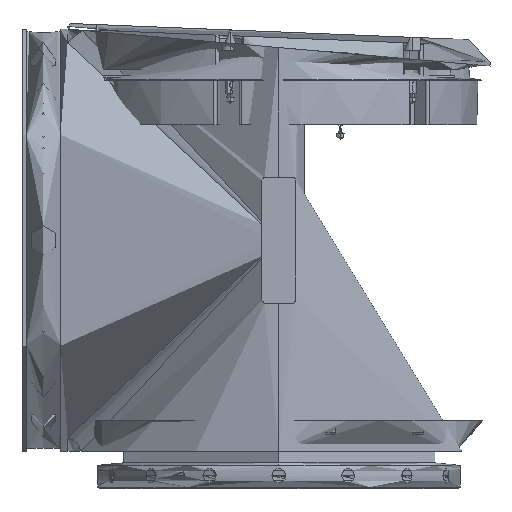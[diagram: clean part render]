
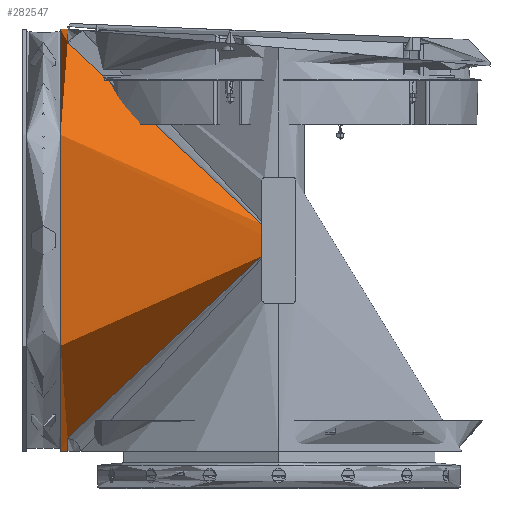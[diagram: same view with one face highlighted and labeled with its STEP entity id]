
A CAD part, left-side view. The second image highlights one B-rep face of the part: STEP entity #282547.
In plain terms, the highlighted cylindrical face has radius 74 mm (diameter 148 mm), a partial arc.
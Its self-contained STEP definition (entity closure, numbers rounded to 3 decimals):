
#11278 = DIRECTION ( 'NONE',  ( 0., 1., 0. ) ) ;
#16106 = CARTESIAN_POINT ( 'NONE',  ( 0., 74., 148. ) ) ;
#21980 = VERTEX_POINT ( 'NONE', #307276 ) ;
#27190 = CARTESIAN_POINT ( 'NONE',  ( -1.362, 74.352, 147.988 ) ) ;
#32017 = CARTESIAN_POINT ( 'NONE',  ( -5.457, 75.236, 147.807 ) ) ;
#34408 = CARTESIAN_POINT ( 'NONE',  ( -15.374, 76.029, 146.388 ) ) ;
#47119 = VERTEX_POINT ( 'NONE', #16106 ) ;
#50389 = CARTESIAN_POINT ( 'NONE',  ( 0., 74., 0. ) ) ;
#52178 = DIRECTION ( 'NONE',  ( 0., -1., 0. ) ) ;
#54601 = CARTESIAN_POINT ( 'NONE',  ( -8.745, 75.758, 0.486 ) ) ;
#57765 = ORIENTED_EDGE ( 'NONE', *, *, #212799, .T. ) ;
#59398 = CARTESIAN_POINT ( 'NONE',  ( 0., 74., 0. ) ) ;
#60898 =( BOUNDED_CURVE ( )  B_SPLINE_CURVE ( 3, ( #395126, #94495, #243610, #356043 ),
 .UNSPECIFIED., .F., .F. ) 
 B_SPLINE_CURVE_WITH_KNOTS ( ( 4, 4 ),
 ( 4.788, 5.925 ),
 .UNSPECIFIED. ) 
 CURVE ( )  GEOMETRIC_REPRESENTATION_ITEM ( )  RATIONAL_B_SPLINE_CURVE ( ( 1., 0.895, 0.895, 1. ) ) 
 REPRESENTATION_ITEM ( '' )  );
#71088 = CARTESIAN_POINT ( 'NONE',  ( -0.274, 74.073, 148. ) ) ;
#71439 = FACE_OUTER_BOUND ( 'NONE', #86503, .T. ) ;
#78905 = CARTESIAN_POINT ( 'NONE',  ( -25.908, 74., 4.684 ) ) ;
#86503 = EDGE_LOOP ( 'NONE', ( #462882, #285777, #454811, #204495, #326892, #439816, #57765, #319965 ) ) ;
#94495 = CARTESIAN_POINT ( 'NONE',  ( -71.533, 37.587, 109.208 ) ) ;
#98514 = CARTESIAN_POINT ( 'NONE',  ( 0., -74.001, 74. ) ) ;
#100582 = CARTESIAN_POINT ( 'NONE',  ( -15.923, 76.01, 146.269 ) ) ;
#105389 = CARTESIAN_POINT ( 'NONE',  ( -4.363, 75.03, 147.879 ) ) ;
#107806 = CARTESIAN_POINT ( 'NONE',  ( -2.179, 74.55, 147.97 ) ) ;
#110196 = CARTESIAN_POINT ( 'NONE',  ( -0.545, 74.145, 147.998 ) ) ;
#127966 = CARTESIAN_POINT ( 'NONE',  ( -14.269, 76.047, 1.387 ) ) ;
#130381 = CARTESIAN_POINT ( 'NONE',  ( -15.374, 76.029, 1.612 ) ) ;
#137218 = CARTESIAN_POINT ( 'NONE',  ( -23.888, 74.729, 144.047 ) ) ;
#145102 = AXIS2_PLACEMENT_3D ( 'NONE', #350460, #52178, #203747 ) ;
#148154 = VERTEX_POINT ( 'NONE', #50389 ) ;
#148651 = VERTEX_POINT ( 'NONE', #318983 ) ;
#149023 = VERTEX_POINT ( 'NONE', #281706 ) ;
#152065 = EDGE_CURVE ( 'NONE', #149023, #47119, #248322, .T. ) ;
#176690 = DIRECTION ( 'NONE',  ( 0., 1., 0. ) ) ;
#181153 = CARTESIAN_POINT ( 'NONE',  ( -1.089, 74.284, 147.992 ) ) ;
#191733 = VECTOR ( 'NONE', #11278, 1000. ) ;
#194855 = EDGE_CURVE ( 'NONE', #148154, #203384, #207809, .T. ) ;
#203384 = VERTEX_POINT ( 'NONE', #251942 ) ;
#203747 = DIRECTION ( 'NONE',  ( 0., 0., 1. ) ) ;
#204495 = ORIENTED_EDGE ( 'NONE', *, *, #254424, .F. ) ;
#207809 = LINE ( 'NONE', #317874, #376042 ) ;
#208555 = CARTESIAN_POINT ( 'NONE',  ( -25.908, 74., 4.684 ) ) ;
#212799 = EDGE_CURVE ( 'NONE', #47119, #21980, #382889, .T. ) ;
#223972 = B_SPLINE_CURVE_WITH_KNOTS ( 'NONE', 3,
 ( #59398, #240426, #321007, #54601, #462915, #435908, #127966, #130381, #323413, #391959, #350461, #467735, #433464, #237993, #242844, #208555 ),
 .UNSPECIFIED., .F., .F.,
 ( 4, 2, 2, 2, 2, 2, 2, 4 ),
 ( 0., 0.007, 0.013, 0.015, 0.017, 0.02, 0.024, 0.027 ),
 .UNSPECIFIED. ) ;
#231241 =( BOUNDED_CURVE ( )  B_SPLINE_CURVE ( 3, ( #78905, #482420, #269502, #445767 ),
 .UNSPECIFIED., .F., .F. ) 
 B_SPLINE_CURVE_WITH_KNOTS ( ( 4, 4 ),
 ( 0.358, 1.495 ),
 .UNSPECIFIED. ) 
 CURVE ( )  GEOMETRIC_REPRESENTATION_ITEM ( )  RATIONAL_B_SPLINE_CURVE ( ( 1., 0.895, 0.895, 1. ) ) 
 REPRESENTATION_ITEM ( '' )  );
#237993 = CARTESIAN_POINT ( 'NONE',  ( -23.888, 74.729, 3.953 ) ) ;
#240426 = CARTESIAN_POINT ( 'NONE',  ( -2.177, 74.584, 0. ) ) ;
#242844 = CARTESIAN_POINT ( 'NONE',  ( -24.913, 74.397, 4.312 ) ) ;
#243438 = CARTESIAN_POINT ( 'NONE',  ( 0., -74.001, 148. ) ) ;
#243610 = CARTESIAN_POINT ( 'NONE',  ( -53.703, 62.909, 132.928 ) ) ;
#243652 = DIRECTION ( 'NONE',  ( 0., 1., 0. ) ) ;
#246034 = CARTESIAN_POINT ( 'NONE',  ( 0., 76.5, 74. ) ) ;
#248322 = B_SPLINE_CURVE_WITH_KNOTS ( 'NONE', 3,
 ( #406057, #291175, #137218, #366959, #476991, #435547, #369363, #100582, #34408, #249710, #323050, #398830, #362136, #32017, #105389, #445149, #107806, #27190, #181153, #110196, #71088, #325457 ),
 .UNSPECIFIED., .F., .F.,
 ( 4, 2, 2, 2, 2, 2, 2, 2, 2, 2, 4 ),
 ( 0., 0.003, 0.007, 0.01, 0.012, 0.014, 0.02, 0.024, 0.026, 0.026, 0.027 ),
 .UNSPECIFIED. ) ;
#249710 = CARTESIAN_POINT ( 'NONE',  ( -14.269, 76.047, 146.613 ) ) ;
#251942 = CARTESIAN_POINT ( 'NONE',  ( 0., 76.5, 0. ) ) ;
#254335 = CIRCLE ( 'NONE', #145102, 74. ) ;
#254424 = EDGE_CURVE ( 'NONE', #273331, #366453, #254335, .T. ) ;
#269502 = CARTESIAN_POINT ( 'NONE',  ( -71.533, 37.587, 38.792 ) ) ;
#273331 = VERTEX_POINT ( 'NONE', #410540 ) ;
#281706 = CARTESIAN_POINT ( 'NONE',  ( -25.908, 74., 143.316 ) ) ;
#282547 = ADVANCED_FACE ( 'NONE', ( #71439 ), #433455, .T. ) ;
#285777 = ORIENTED_EDGE ( 'NONE', *, *, #429298, .T. ) ;
#291175 = CARTESIAN_POINT ( 'NONE',  ( -24.913, 74.397, 143.688 ) ) ;
#307276 = CARTESIAN_POINT ( 'NONE',  ( 0., 76.5, 148. ) ) ;
#310604 = DIRECTION ( 'NONE',  ( 0., 1., 0. ) ) ;
#310839 = CARTESIAN_POINT ( 'NONE',  ( -73.786, 6., 68.38 ) ) ;
#317874 = CARTESIAN_POINT ( 'NONE',  ( 0., -74.001, 0. ) ) ;
#318983 = CARTESIAN_POINT ( 'NONE',  ( -25.908, 74., 4.684 ) ) ;
#319965 = ORIENTED_EDGE ( 'NONE', *, *, #339298, .F. ) ;
#320133 = AXIS2_PLACEMENT_3D ( 'NONE', #98514, #176690, #443108 ) ;
#321007 = CARTESIAN_POINT ( 'NONE',  ( -4.36, 75.062, 0.096 ) ) ;
#323050 = CARTESIAN_POINT ( 'NONE',  ( -13.713, 76.044, 146.72 ) ) ;
#323413 = CARTESIAN_POINT ( 'NONE',  ( -15.923, 76.01, 1.731 ) ) ;
#325457 = CARTESIAN_POINT ( 'NONE',  ( 0., 74., 148. ) ) ;
#326892 = ORIENTED_EDGE ( 'NONE', *, *, #477243, .T. ) ;
#339298 = EDGE_CURVE ( 'NONE', #203384, #21980, #419810, .T. ) ;
#341978 = AXIS2_PLACEMENT_3D ( 'NONE', #246034, #243652, #365717 ) ;
#350460 = CARTESIAN_POINT ( 'NONE',  ( 0., 6., 74. ) ) ;
#350461 = CARTESIAN_POINT ( 'NONE',  ( -18.638, 75.806, 2.377 ) ) ;
#356043 = CARTESIAN_POINT ( 'NONE',  ( -25.908, 74., 143.316 ) ) ;
#362136 = CARTESIAN_POINT ( 'NONE',  ( -8.745, 75.758, 147.514 ) ) ;
#365717 = DIRECTION ( 'NONE',  ( 0., 0., 1. ) ) ;
#366453 = VERTEX_POINT ( 'NONE', #310839 ) ;
#366959 = CARTESIAN_POINT ( 'NONE',  ( -21.817, 75.272, 144.719 ) ) ;
#369363 = CARTESIAN_POINT ( 'NONE',  ( -17.56, 75.915, 145.895 ) ) ;
#376042 = VECTOR ( 'NONE', #310604, 1000. ) ;
#382889 = LINE ( 'NONE', #243438, #191733 ) ;
#391959 = CARTESIAN_POINT ( 'NONE',  ( -17.56, 75.915, 2.105 ) ) ;
#395126 = CARTESIAN_POINT ( 'NONE',  ( -73.786, 6., 79.62 ) ) ;
#398830 = CARTESIAN_POINT ( 'NONE',  ( -10.946, 75.978, 147.221 ) ) ;
#406057 = CARTESIAN_POINT ( 'NONE',  ( -25.908, 74., 143.316 ) ) ;
#410540 = CARTESIAN_POINT ( 'NONE',  ( -73.786, 6., 79.62 ) ) ;
#419810 = CIRCLE ( 'NONE', #341978, 74. ) ;
#429298 = EDGE_CURVE ( 'NONE', #148154, #148651, #223972, .T. ) ;
#433455 = CYLINDRICAL_SURFACE ( 'NONE', #320133, 74. ) ;
#433464 = CARTESIAN_POINT ( 'NONE',  ( -21.817, 75.272, 3.281 ) ) ;
#435547 = CARTESIAN_POINT ( 'NONE',  ( -18.638, 75.806, 145.623 ) ) ;
#435908 = CARTESIAN_POINT ( 'NONE',  ( -13.713, 76.044, 1.28 ) ) ;
#439816 = ORIENTED_EDGE ( 'NONE', *, *, #152065, .T. ) ;
#443108 = DIRECTION ( 'NONE',  ( 0., 0., 1. ) ) ;
#445149 = CARTESIAN_POINT ( 'NONE',  ( -2.725, 74.676, 147.952 ) ) ;
#445767 = CARTESIAN_POINT ( 'NONE',  ( -73.786, 6., 68.38 ) ) ;
#450241 = EDGE_CURVE ( 'NONE', #148651, #366453, #231241, .T. ) ;
#454811 = ORIENTED_EDGE ( 'NONE', *, *, #450241, .T. ) ;
#462882 = ORIENTED_EDGE ( 'NONE', *, *, #194855, .F. ) ;
#462915 = CARTESIAN_POINT ( 'NONE',  ( -10.945, 75.978, 0.779 ) ) ;
#467735 = CARTESIAN_POINT ( 'NONE',  ( -20.766, 75.484, 2.965 ) ) ;
#476991 = CARTESIAN_POINT ( 'NONE',  ( -20.766, 75.484, 145.035 ) ) ;
#477243 = EDGE_CURVE ( 'NONE', #273331, #149023, #60898, .T. ) ;
#482420 = CARTESIAN_POINT ( 'NONE',  ( -53.703, 62.909, 15.072 ) ) ;
